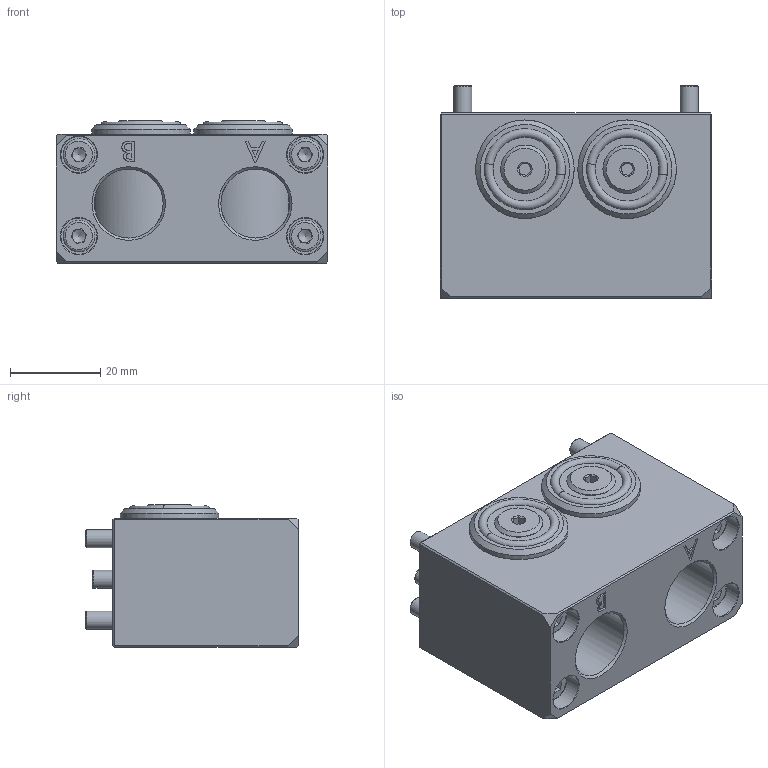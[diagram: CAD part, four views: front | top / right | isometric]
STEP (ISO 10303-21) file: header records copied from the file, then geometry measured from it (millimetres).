
FILE_DESCRIPTION(/* description */ (''),/* implementation_level */ '2;1');
FILE_NAME(/* name */ 'QCWM-02R',/* time_stamp */ '2023-02-24T13:55:27+08:00',/* author */ (''),/* organization */ (''),/* preprocessor_version */ 'ST-DEVELOPER v9',/* originating_system */ 'UGS - NX 4.0',/* authorisation */ '');
FILE_SCHEMA (('AUTOMOTIVE_DESIGN { 1 0 10303 214 1 1 1 1 }'));
Length unit declared in the file: millimetre
Products named in the file (1): AdmiEF92k6ut
Bounding box: 60 x 47 x 31.5 mm (x, y, z)
Volume: 64447.4 mm3; surface area: 18059.1 mm2
Topology: 1 solids, 3 shells, 216 faces, 483 edges, 308 vertices
Faces by surface type: plane 139, cylinder 30, cone 24, torus 15, extrusion 8
Full cylindrical faces by diameter (mm): 4 x6, 4.5 x4, 7 x4, 8 x4, 15.25 x2, 17.754 x2, 21.8 x2
Entity records: 6182 total; most frequent: CARTESIAN_POINT 1629, DIRECTION 920, ORIENTED_EDGE 818, EDGE_CURVE 409, AXIS2_PLACEMENT_3D 332, EDGE_LOOP 318, VERTEX_POINT 293, VECTOR 256
